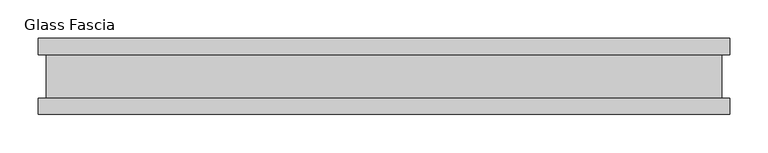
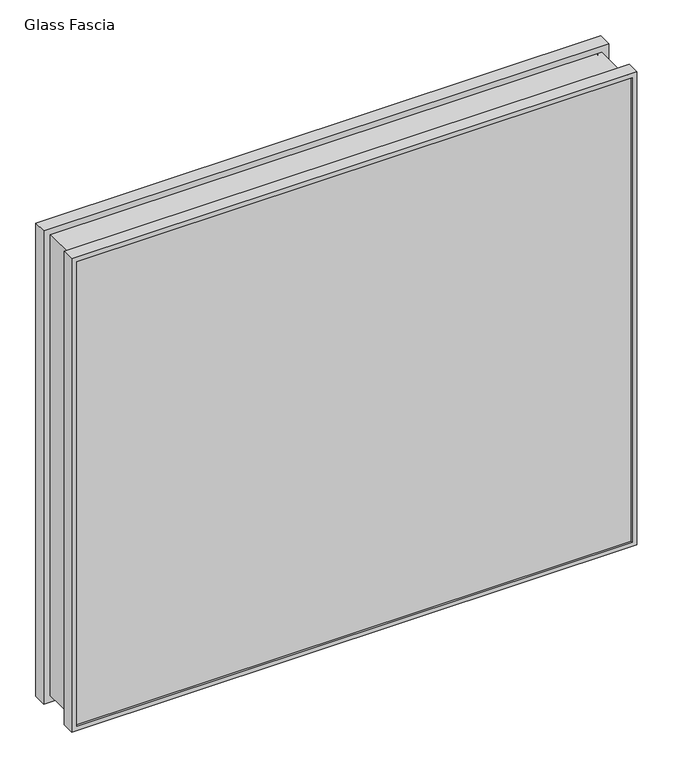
"""IFC4 building model written with IfcOpenShell, lengths in millimetres: proxy geometry, Panel-Fascia-Teknion-Altos-Glass : Glass Fascia."""

import ifcopenshell
import ifcopenshell.guid

model = None  # the IFC model being written
_history = None  # IfcOwnerHistory: only IFC2X3 demands one
_inside = {}  # id of a spatial element -> (the spatial element, [elements in it])
_under = {}  # id of a project, library or spatial element -> (it, [spatial elements below it])
_declared = {}  # id of a project -> (the project, [libraries it declares])
_typed = {}  # id of a type object -> (the type object, [elements of that type])
_made_of = {}  # id of a material, layer set ... -> (it, [elements and type objects made of it])


def new_model(schema):
    """Start an empty IFC model of exactly this schema.

    Asked for "IFC4X3", IfcOpenShell would pick the latest addendum, in which some entities
    have other attributes; the version numbers below select the first issue.
    IFC2X3 requires an IfcOwnerHistory on every rooted entity: one is made here for all.
    """
    global model, _history
    if schema == "IFC4X3":
        model = ifcopenshell.file(schema_version=(4, 3, 0, 0))
    else:
        model = ifcopenshell.file(schema=schema)
    _inside.clear()
    _under.clear()
    _declared.clear()
    _typed.clear()
    _made_of.clear()
    _history = None
    if model.schema == "IFC2X3":
        org = make("IfcOrganization", Name="unknown")
        user = make(
            "IfcPersonAndOrganization",
            ThePerson=make("IfcPerson", FamilyName="unknown"),
            TheOrganization=org,
        )
        app = make(
            "IfcApplication",
            ApplicationDeveloper=org,
            Version="unknown",
            ApplicationFullName="unknown",
            ApplicationIdentifier="unknown",
        )
        _history = make(
            "IfcOwnerHistory",
            OwningUser=user,
            OwningApplication=app,
            ChangeAction="ADDED",
            CreationDate=0,
        )
    return model


def make(cls, **values):
    """One entity of the class cls with the attributes given. An attribute that is None is left unset."""
    return model.create_entity(
        cls, **{name: value for name, value in values.items() if value is not None}
    )


def rooted(cls, **values):
    """An entity with a GlobalId (a new one), such as an element, a storey or a relation."""
    return make(cls, GlobalId=ifcopenshell.guid.new(), OwnerHistory=_history, **values)


def si_unit(unit_type, name, prefix=None):
    """IfcSIUnit, for example si_unit("LENGTHUNIT", "METRE", prefix="MILLI")."""
    return make("IfcSIUnit", UnitType=unit_type, Prefix=prefix, Name=name)


def assignment(units):
    """IfcUnitAssignment: the units of a project."""
    return None if units is None else make("IfcUnitAssignment", Units=units)


def point(xyz):
    """IfcCartesianPoint."""
    return None if xyz is None else make("IfcCartesianPoint", Coordinates=xyz)


def direction(xyz):
    """IfcDirection."""
    return None if xyz is None else make("IfcDirection", DirectionRatios=xyz)


def frame(location, z_axis=None, x_axis=None):
    """IfcAxis2Placement3D, a coordinate frame: its origin and axes. An axis left out is left unset."""
    return make(
        "IfcAxis2Placement3D",
        Location=point(location),
        Axis=direction(z_axis),
        RefDirection=direction(x_axis),
    )


def origin():
    """The frame at (0, 0, 0) with its axes left unset."""
    return frame((0.0, 0.0, 0.0))


def place(relative_to, where):
    """IfcLocalPlacement: puts the frame where relative to a parent placement (None: the world)."""
    return make(
        "IfcLocalPlacement", PlacementRelTo=relative_to, RelativePlacement=where
    )


def context(
    kind, dimensions, precision=None, world=None, true_north=None, identifier=None
):
    """IfcGeometricRepresentationContext, for example the 3D "Model" context."""
    return make(
        "IfcGeometricRepresentationContext",
        ContextIdentifier=identifier,
        ContextType=kind,
        CoordinateSpaceDimension=dimensions,
        Precision=precision,
        WorldCoordinateSystem=world,
        TrueNorth=true_north,
    )


def project(units=None, contexts=None):
    """IfcProject with its units and contexts."""
    return rooted(
        "IfcProject",
        Name="project",
        RepresentationContexts=contexts,
        UnitsInContext=assignment(units),
    )


def spatial(cls, under=None, at=None, **own):
    """A site, building, storey or space (cls), placed at a placement, below another one or the project."""
    s = rooted(cls, ObjectPlacement=at, **own)
    if under is not None:
        _under.setdefault(under.id(), (under, []))[1].append(s)
    return s


def polyline(points):
    """IfcPolyline through the points."""
    return make("IfcPolyline", Points=[point(p) for p in points])


def ellipse_curve(where, semi_axis1, semi_axis2):
    """IfcEllipse in the frame where."""
    return make(
        "IfcEllipse", Position=where, SemiAxis1=semi_axis1, SemiAxis2=semi_axis2
    )


def outline(outer, holes=None, kind="AREA"):
    """IfcArbitraryClosedProfileDef: a profile drawn as a closed curve; with holes, ...WithVoids."""
    if holes is None:
        return make("IfcArbitraryClosedProfileDef", ProfileType=kind, OuterCurve=outer)
    return make(
        "IfcArbitraryProfileDefWithVoids",
        ProfileType=kind,
        OuterCurve=outer,
        InnerCurves=holes,
    )


def extrude(swept, where, along, depth):
    """IfcExtrudedAreaSolid: the profile swept, set in the frame where, extruded along a direction by depth."""
    return make(
        "IfcExtrudedAreaSolid",
        SweptArea=swept,
        Position=where,
        ExtrudedDirection=direction(along),
        Depth=depth,
    )


def shape(context_of_items, identifier, shape_type, items):
    """IfcShapeRepresentation: the items that make up one representation, for example the "Body"."""
    return make(
        "IfcShapeRepresentation",
        ContextOfItems=context_of_items,
        RepresentationIdentifier=identifier,
        RepresentationType=shape_type,
        Items=items,
    )


def source(mapping_origin, context_of_items, identifier, shape_type, items):
    """IfcRepresentationMap: a shape defined once, which mapped items show again and again."""
    return make(
        "IfcRepresentationMap",
        MappingOrigin=mapping_origin,
        MappedRepresentation=shape(context_of_items, identifier, shape_type, items),
    )


def transform(
    local_origin,
    x_axis=None,
    y_axis=None,
    z_axis=None,
    scale=None,
    scale2=None,
    scale3=None,
    uniform=True,
):
    """IfcCartesianTransformationOperator3D, or its non-uniform kind. x_axis, y_axis, z_axis: its Axis1, 2, 3."""
    if uniform:
        return make(
            "IfcCartesianTransformationOperator3D",
            Axis1=direction(x_axis),
            Axis2=direction(y_axis),
            LocalOrigin=point(local_origin),
            Scale=scale,
            Axis3=direction(z_axis),
        )
    return make(
        "IfcCartesianTransformationOperator3DnonUniform",
        Axis1=direction(x_axis),
        Axis2=direction(y_axis),
        LocalOrigin=point(local_origin),
        Scale=scale,
        Axis3=direction(z_axis),
        Scale2=scale2,
        Scale3=scale3,
    )


def mapped(mapping_source, mapping_target):
    """IfcMappedItem: shows the shape of a source again, moved by a transform."""
    return make(
        "IfcMappedItem", MappingSource=mapping_source, MappingTarget=mapping_target
    )


def made_of(thing, what):
    """Note that an element or type object is made of a material, layer set ...; save() writes the relation."""
    if what is not None:
        _made_of.setdefault(what.id(), (what, []))[1].append(thing)
    return thing


def element(
    cls,
    number,
    at=None,
    inside=None,
    cuts=None,
    type_object=None,
    material=None,
    context=None,
    identifier="Body",
    shape_type=None,
    held_by="IfcProductDefinitionShape",
    body=None,
    shapes=None,
    **own,
):
    """One element of the class cls, such as IfcWall. Its Tag is "e" and its number.

    at: its placement. inside: the storey or other place that contains it. cuts: it is an
    opening in that element (IfcRelVoidsElement). A single representation is given by context,
    identifier, shape_type and body (its items); several are given by shapes. held_by: the class
    of the entity that holds the representations. save() writes the other relations.
    """
    e = rooted(cls, Tag="e%d" % number, ObjectPlacement=at, **own)
    if body is not None:
        shapes = [shape(context, identifier, shape_type, body)]
    if shapes is not None:
        e.Representation = make(held_by, Representations=shapes)
    if inside is not None:
        _inside.setdefault(inside.id(), (inside, []))[1].append(e)
    if cuts is not None:
        rooted(
            "IfcRelVoidsElement", RelatingBuildingElement=cuts, RelatedOpeningElement=e
        )
    if type_object is not None:
        _typed.setdefault(type_object.id(), (type_object, []))[1].append(e)
    return made_of(e, material)


def aggregate(whole, parts):
    """IfcRelAggregates: a whole, such as a stair, and the parts it consists of."""
    return rooted("IfcRelAggregates", RelatingObject=whole, RelatedObjects=parts)


def save(model, path):
    """Write the relations noted so far, then the file.

    IfcRelAggregates (storeys below a building ...), IfcRelContainedInSpatialStructure (elements
    in a storey), IfcRelDefinesByType, IfcRelAssociatesMaterial and IfcRelDeclares: one each for
    every whole, place, type object, material and project.
    """
    for whole, parts in _under.values():
        aggregate(whole, parts)
    for where, things in _inside.values():
        rooted(
            "IfcRelContainedInSpatialStructure",
            RelatedElements=things,
            RelatingStructure=where,
        )
    for kind, things in _typed.values():
        rooted("IfcRelDefinesByType", RelatedObjects=things, RelatingType=kind)
    for what, things in _made_of.values():
        rooted("IfcRelAssociatesMaterial", RelatedObjects=things, RelatingMaterial=what)
    for by, libraries in _declared.values():
        rooted("IfcRelDeclares", RelatingContext=by, RelatedDefinitions=libraries)
    model.write(path)


def plane_surface(at):
    """IfcPlane: the flat surface through the origin of the frame at, square to its z axis."""
    return make("IfcPlane", Position=at)


def cylinder_surface(at, radius):
    """IfcCylindricalSurface: all points at the distance radius from the z axis of the frame at."""
    return make("IfcCylindricalSurface", Position=at, Radius=radius)


def advanced_brep(points, edges, surfaces, faces):
    """IfcAdvancedBrep: a solid bounded by faces that lie on surfaces and meet in shared edges.

    An edge is (start, end): straight between two places in points (the first is 0);
    or (start, end, curve); or (start, end, curve, False) where it runs against its curve.
    A face is (place in surfaces, loops), or (place, loops, False) where it looks against
    its surface's normal. A loop lists edges by number (the first is 1), with a minus sign
    where the edge is run from its end to its start. The first loop is the outer one.
    """
    corners = [point(p) for p in points]
    vertices = [make("IfcVertexPoint", VertexGeometry=c) for c in corners]
    made = []
    for start, end, *more in edges:
        made.append(
            make(
                "IfcEdgeCurve",
                EdgeStart=vertices[start],
                EdgeEnd=vertices[end],
                EdgeGeometry=more[0] if more else make("IfcPolyline", Points=[corners[start], corners[end]]),
                SameSense=more[1] if len(more) > 1 else True,
            )
        )
    hull = []
    for where, loops, *sense in faces:
        bounds = []
        for j, loop in enumerate(loops):
            ring = [make("IfcOrientedEdge", EdgeElement=made[abs(k) - 1], Orientation=k > 0) for k in loop]
            bounds.append(
                make(
                    "IfcFaceOuterBound" if j == 0 else "IfcFaceBound",
                    Bound=make("IfcEdgeLoop", EdgeList=ring),
                    Orientation=True,
                )
            )
        hull.append(make("IfcAdvancedFace", Bounds=bounds, FaceSurface=surfaces[where], SameSense=sense[0] if sense else True))
    return make("IfcAdvancedBrep", Outer=make("IfcClosedShell", CfsFaces=hull))


def glass_fascia_b43ce2ad(model_context):
    return source(origin(), model_context, "Body", "SolidModel", [
        advanced_brep(
        [(454.0619976, 50.0558594, 807.593), (454.0619976, 28.2698798, 807.593), (454.0619976, 28.2698798, 3.175), (454.0619976, 50.0558594, 3.175), (446.6267898, 47.1322551, 800.1577922), (446.6267898, 50.0558594, 800.1577922), (446.6267898, 50.0558594, 10.6102078), (446.6267898, 47.1322551, 10.6102078), (451.9094713, 41.1791301, 805.4404737), (451.9094713, 47.1322551, 805.4404737), (451.9094713, 47.1322551, 5.3275263), (451.9094713, 41.1791301, 5.3275263), (446.1045822, -40.9277344, 799.6355845), (446.1045822, 41.1791301, 799.6355845), (446.1045822, 41.1791301, 11.1324155), (446.1045822, -40.9277344, 11.1324155), (451.9094713, -46.8808594, 805.4404737), (451.9094713, -40.9277344, 805.4404737), (451.9094713, -40.9277344, 5.3275263), (451.9094713, -46.8808594, 5.3275263), (446.6267898, -50.0558594, 800.1577922), (446.6267898, -46.8808594, 800.1577922), (446.6267898, -46.8808594, 10.6102078), (446.6267898, -50.0558594, 10.6102078), (454.0619976, -28.8801202, 807.593), (454.0619976, -50.0558594, 807.593), (454.0619976, -50.0558594, 3.175), (454.0619976, -28.8801202, 3.175), (443.2101563, 28.2698798, 796.7411586), (443.2101563, -28.8801202, 796.7411586), (443.2101563, -28.8801202, 14.0268414), (443.2101563, 28.2698798, 14.0268414), (-454.0619976, 28.2698798, 3.175), (-454.0619976, 50.0558594, 3.175), (-446.6267898, 50.0558594, 10.6102078), (-446.6267898, 47.1322551, 10.6102078), (-451.9094713, 47.1322551, 5.3275263), (-451.9094713, 41.1791301, 5.3275263), (-446.1045822, 41.1791301, 11.1324155), (-446.1045822, -40.9277344, 11.1324155), (-451.9094713, -40.9277344, 5.3275263), (-451.9094713, -46.8808594, 5.3275263), (-446.6267898, -46.8808594, 10.6102078), (-446.6267898, -50.0558594, 10.6102078), (-454.0619976, -50.0558594, 3.175), (-454.0619976, -28.8801202, 3.175), (-443.2101563, -28.8801202, 14.0268414), (-443.2101563, 28.2698798, 14.0268414), (-454.0619976, 28.2698798, 807.593), (-454.0619976, 50.0558594, 807.593), (-446.6267898, 50.0558594, 800.1577922), (-446.6267898, 47.1322551, 800.1577922), (-451.9094713, 47.1322551, 805.4404737), (-451.9094713, 41.1791301, 805.4404737), (-446.1045822, 41.1791301, 799.6355845), (-446.1045822, -40.9277344, 799.6355845), (-451.9094713, -40.9277344, 805.4404737), (-451.9094713, -46.8808594, 805.4404737), (-446.6267898, -46.8808594, 800.1577922), (-446.6267898, -50.0558594, 800.1577922), (-454.0619976, -50.0558594, 807.593), (-454.0619976, -28.8801202, 807.593), (-443.2101563, -28.8801202, 796.7411586), (-443.2101563, 28.2698798, 796.7411586)],
        [
            (0, 1),
            (1, 2),
            (2, 3),
            (3, 0),
            (4, 5),
            (5, 6),
            (6, 7),
            (7, 4),
            (8, 9),
            (9, 10),
            (10, 11),
            (11, 8),
            (12, 13, ellipse_curve(frame((485.4904245, 0.1256979, 839.0214268), z_axis=(0.7071067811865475, 0.0, -0.7071067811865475), x_axis=(0.7071067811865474, 0.0, 0.7071067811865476)), 80.4565581, 56.8913778)),
            (13, 14),
            (14, 15, ellipse_curve(frame((485.4904245, 0.1256979, -28.2534268), z_axis=(0.7071067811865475, 0.0, 0.7071067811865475), x_axis=(-0.7071067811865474, 0.0, 0.7071067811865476)), 80.4565581, 56.8913778)),
            (15, 12),
            (16, 17),
            (17, 18),
            (18, 19),
            (19, 16),
            (20, 21),
            (21, 22),
            (22, 23),
            (23, 20),
            (24, 25),
            (25, 26),
            (26, 27),
            (27, 24),
            (28, 29),
            (29, 30),
            (30, 31),
            (31, 28),
            (2, 32),
            (32, 33),
            (33, 3),
            (6, 34),
            (34, 35),
            (35, 7),
            (10, 36),
            (36, 37),
            (37, 11),
            (14, 38),
            (38, 39, ellipse_curve(frame((-485.4904245, 0.1256979, -28.2534268), z_axis=(0.7071067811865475, 0.0, -0.7071067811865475), x_axis=(0.7071067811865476, 0.0, 0.7071067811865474)), 80.4565581, 56.8913778)),
            (39, 15),
            (18, 40),
            (40, 41),
            (41, 19),
            (22, 42),
            (42, 43),
            (43, 23),
            (26, 44),
            (44, 45),
            (45, 27),
            (30, 46),
            (46, 47),
            (47, 31),
            (32, 48),
            (48, 49),
            (49, 33),
            (34, 50),
            (50, 51),
            (51, 35),
            (36, 52),
            (52, 53),
            (53, 37),
            (38, 54),
            (54, 55, ellipse_curve(frame((-485.4904245, 0.1256979, 839.0214268), z_axis=(-0.7071067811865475, 0.0, -0.7071067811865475), x_axis=(0.7071067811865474, 0.0, -0.7071067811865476)), 80.4565581, 56.8913778)),
            (55, 39),
            (40, 56),
            (56, 57),
            (57, 41),
            (42, 58),
            (58, 59),
            (59, 43),
            (44, 60),
            (60, 61),
            (61, 45),
            (46, 62),
            (62, 63),
            (63, 47),
            (48, 1),
            (0, 49),
            (5, 50),
            (4, 51),
            (9, 52),
            (8, 53),
            (13, 54),
            (12, 55),
            (17, 56),
            (16, 57),
            (21, 58),
            (20, 59),
            (25, 60),
            (24, 61),
            (29, 62),
            (28, 63),
        ],
        [
            plane_surface(frame((454.0619976, 28.2698798, 807.593), z_axis=(1.0, 0.0, 0.0), x_axis=(0.0, 0.0, -1.0))),
            plane_surface(frame((446.6267898, 50.0558594, 800.1577922), z_axis=(-1.0, 0.0, 0.0), x_axis=(0.0, 0.0, -1.0))),
            plane_surface(frame((451.9094713, 47.1322551, 805.4404737), z_axis=(-1.0, 0.0, 0.0), x_axis=(0.0, 0.0, -1.0))),
            cylinder_surface(frame((485.4904245, 0.1256979, 807.593), z_axis=(0.0, 0.0, 1.0), x_axis=(1.0, 0.0, 0.0)), 56.8913778),
            plane_surface(frame((451.9094713, -40.9277344, 805.4404737), z_axis=(-1.0, 0.0, 0.0), x_axis=(0.0, 0.0, -1.0))),
            plane_surface(frame((446.6267898, -46.8808594, 800.1577922), z_axis=(-1.0, 0.0, 0.0), x_axis=(0.0, 0.0, -1.0))),
            plane_surface(frame((454.0619976, -50.0558594, 807.593), z_axis=(1.0, 0.0, 0.0), x_axis=(0.0, 0.0, -1.0))),
            plane_surface(frame((443.2101563, -28.8801202, 796.7411586), z_axis=(1.0, 0.0, 0.0), x_axis=(0.0, 0.0, -1.0))),
            plane_surface(frame((454.0619976, 28.2698798, 3.175), z_axis=(0.0, 0.0, -1.0), x_axis=(-1.0, 0.0, 0.0))),
            plane_surface(frame((446.6267898, 50.0558594, 10.6102078), z_axis=(0.0, 0.0, 1.0), x_axis=(-1.0, 0.0, 0.0))),
            plane_surface(frame((451.9094713, 47.1322551, 5.3275263), z_axis=(0.0, 0.0, 1.0), x_axis=(-1.0, 0.0, 0.0))),
            cylinder_surface(frame((454.0619976, 0.1256979, -28.2534268), z_axis=(1.0, 0.0, 0.0), x_axis=(0.0, 0.0, -1.0)), 56.8913778),
            plane_surface(frame((451.9094713, -40.9277344, 5.3275263), z_axis=(0.0, 0.0, 1.0), x_axis=(-1.0, 0.0, 0.0))),
            plane_surface(frame((446.6267898, -46.8808594, 10.6102078), z_axis=(0.0, 0.0, 1.0), x_axis=(-1.0, 0.0, 0.0))),
            plane_surface(frame((454.0619976, -50.0558594, 3.175), z_axis=(0.0, 0.0, -1.0), x_axis=(-1.0, 0.0, 0.0))),
            plane_surface(frame((443.2101563, -28.8801202, 14.0268414), z_axis=(0.0, 0.0, -1.0), x_axis=(-1.0, 0.0, 0.0))),
            plane_surface(frame((-454.0619976, 28.2698798, 3.175), z_axis=(-1.0, 0.0, 0.0), x_axis=(0.0, 0.0, 1.0))),
            plane_surface(frame((-446.6267898, 50.0558594, 10.6102078), z_axis=(1.0, 0.0, 0.0), x_axis=(0.0, 0.0, 1.0))),
            plane_surface(frame((-451.9094713, 47.1322551, 5.3275263), z_axis=(1.0, 0.0, 0.0), x_axis=(0.0, 0.0, 1.0))),
            cylinder_surface(frame((-485.4904245, 0.1256979, 3.175), z_axis=(0.0, 0.0, -1.0), x_axis=(-1.0, 0.0, 0.0)), 56.8913778),
            plane_surface(frame((-451.9094713, -40.9277344, 5.3275263), z_axis=(1.0, 0.0, 0.0), x_axis=(0.0, 0.0, 1.0))),
            plane_surface(frame((-446.6267898, -46.8808594, 10.6102078), z_axis=(1.0, 0.0, 0.0), x_axis=(0.0, 0.0, 1.0))),
            plane_surface(frame((-454.0619976, -50.0558594, 3.175), z_axis=(-1.0, 0.0, 0.0), x_axis=(0.0, 0.0, 1.0))),
            plane_surface(frame((-443.2101563, -28.8801202, 14.0268414), z_axis=(-1.0, 0.0, 0.0), x_axis=(0.0, 0.0, 1.0))),
            plane_surface(frame((-454.0619976, 28.2698798, 807.593), z_axis=(0.0, 0.0, 1.0), x_axis=(1.0, 0.0, 0.0))),
            plane_surface(frame((-454.0619976, 50.0558594, 807.593), z_axis=(0.0, 1.0, 0.0), x_axis=(1.0, 0.0, 0.0))),
            plane_surface(frame((-446.6267898, 50.0558594, 800.1577922), z_axis=(0.0, 0.0, -1.0), x_axis=(1.0, 0.0, 0.0))),
            plane_surface(frame((-446.6267898, 47.1322551, 800.1577922), z_axis=(0.0, -1.0, 0.0), x_axis=(1.0, 0.0, 0.0))),
            plane_surface(frame((-451.9094713, 47.1322551, 805.4404737), z_axis=(0.0, 0.0, -1.0), x_axis=(1.0, 0.0, 0.0))),
            plane_surface(frame((-451.9094713, 41.1791301, 805.4404737), z_axis=(0.0, 1.0, 0.0), x_axis=(1.0, 0.0, 0.0))),
            cylinder_surface(frame((-454.0619976, 0.1256979, 839.0214268), z_axis=(-1.0, 0.0, 0.0), x_axis=(0.0, 0.0, 1.0)), 56.8913778),
            plane_surface(frame((-446.1045822, -40.9277344, 799.6355845), z_axis=(0.0, -1.0, 0.0), x_axis=(1.0, 0.0, 0.0))),
            plane_surface(frame((-451.9094713, -40.9277344, 805.4404737), z_axis=(0.0, 0.0, -1.0), x_axis=(1.0, 0.0, 0.0))),
            plane_surface(frame((-451.9094713, -46.8808594, 805.4404737), z_axis=(0.0, 1.0, 0.0), x_axis=(1.0, 0.0, 0.0))),
            plane_surface(frame((-446.6267898, -46.8808594, 800.1577922), z_axis=(0.0, 0.0, -1.0), x_axis=(1.0, 0.0, 0.0))),
            plane_surface(frame((-446.6267898, -50.0558594, 800.1577922), z_axis=(0.0, -1.0, 0.0), x_axis=(1.0, 0.0, 0.0))),
            plane_surface(frame((-454.0619976, -50.0558594, 807.593), z_axis=(0.0, 0.0, 1.0), x_axis=(1.0, 0.0, 0.0))),
            plane_surface(frame((-454.0619976, -28.8801202, 807.593), z_axis=(0.0, 1.0, 0.0), x_axis=(1.0, 0.0, 0.0))),
            plane_surface(frame((-443.2101563, -28.8801202, 796.7411586), z_axis=(0.0, 0.0, 1.0), x_axis=(1.0, 0.0, 0.0))),
            plane_surface(frame((-443.2101563, 28.2698798, 796.7411586), z_axis=(0.0, -1.0, 0.0), x_axis=(1.0, 0.0, 0.0))),
        ],
        [
            (0, [[1, 2, 3, 4]]),
            (1, [[5, 6, 7, 8]]),
            (2, [[9, 10, 11, 12]]),
            (3, [[13, 14, 15, 16]]),
            (4, [[17, 18, 19, 20]]),
            (5, [[21, 22, 23, 24]]),
            (6, [[25, 26, 27, 28]]),
            (7, [[29, 30, 31, 32]]),
            (8, [[-3, 33, 34, 35]]),
            (9, [[-7, 36, 37, 38]]),
            (10, [[-11, 39, 40, 41]]),
            (11, [[-15, 42, 43, 44]]),
            (12, [[-19, 45, 46, 47]]),
            (13, [[-23, 48, 49, 50]]),
            (14, [[-27, 51, 52, 53]]),
            (15, [[-31, 54, 55, 56]]),
            (16, [[-34, 57, 58, 59]]),
            (17, [[-37, 60, 61, 62]]),
            (18, [[-40, 63, 64, 65]]),
            (19, [[-43, 66, 67, 68]]),
            (20, [[-46, 69, 70, 71]]),
            (21, [[-49, 72, 73, 74]]),
            (22, [[-52, 75, 76, 77]]),
            (23, [[-55, 78, 79, 80]]),
            (24, [[-58, 81, -1, 82]]),
            (25, [[-35, -59, -82, -4], [83, -60, -36, -6]]),
            (26, [[-61, -83, -5, 84]]),
            (27, [[85, -63, -39, -10], [-38, -62, -84, -8]]),
            (28, [[-64, -85, -9, 86]]),
            (29, [[-41, -65, -86, -12], [87, -66, -42, -14]]),
            (30, [[-67, -87, -13, 88]]),
            (31, [[89, -69, -45, -18], [-44, -68, -88, -16]]),
            (32, [[-70, -89, -17, 90]]),
            (33, [[-47, -71, -90, -20], [91, -72, -48, -22]]),
            (34, [[-73, -91, -21, 92]]),
            (35, [[93, -75, -51, -26], [-50, -74, -92, -24]]),
            (36, [[-76, -93, -25, 94]]),
            (37, [[-53, -77, -94, -28], [95, -78, -54, -30]]),
            (38, [[-79, -95, -29, 96]]),
            (39, [[-81, -57, -33, -2], [-56, -80, -96, -32]]),
        ],
    ),
        extrude(outline(polyline([(451.9094713, -40.9277344), (451.9094713, -46.8808594), (-451.9094713, -46.8808594), (-451.9094713, -40.9277344), (451.9094713, -40.9277344)])), frame((0.0, 0.0, 5.3275263), z_axis=(0.0, 0.0, 1.0), x_axis=(1.0, 0.0, 0.0)), (0.0, 0.0, 1.0), 799.618928),
        extrude(outline(polyline([(451.9094713, 41.1791301), (-451.9094713, 41.1791301), (-451.9094713, 47.1322551), (451.9094713, 47.1322551), (451.9094713, 41.1791301)])), frame((0.0, 0.0, 5.3275263), z_axis=(0.0, 0.0, 1.0), x_axis=(1.0, 0.0, 0.0)), (0.0, 0.0, 1.0), 799.618928),
    ])


if __name__ == "__main__":
    model = new_model("IFC4")
    model_context = context("Model", 3, world=origin())
    ifc_project = project(units=[si_unit("LENGTHUNIT", "METRE", prefix="MILLI")], contexts=[model_context])
    site = spatial("IfcSite", under=ifc_project)
    building = spatial("IfcBuilding", under=site)
    placement = place(None, origin())
    glass_fascia_shape = glass_fascia_b43ce2ad(model_context)
    element("IfcBuildingElementProxy", 1, Name="Panel-Fascia-Teknion-Altos-Glass : Glass Fascia", ObjectType="Panel-Fascia-Teknion-Altos-Glass : Glass Fascia", at=placement, inside=building, context=model_context, shape_type="MappedRepresentation", body=[
        mapped(glass_fascia_shape, transform((0.0, 0.0, 0.0), x_axis=(1.0, 0.0, 0.0), y_axis=(0.0, 1.0, 0.0), z_axis=(0.0, 0.0, 1.0))),
    ])
    save(model, "model.ifc")
